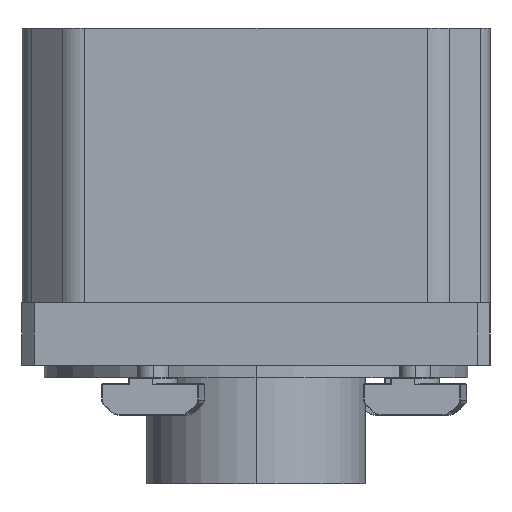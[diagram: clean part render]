
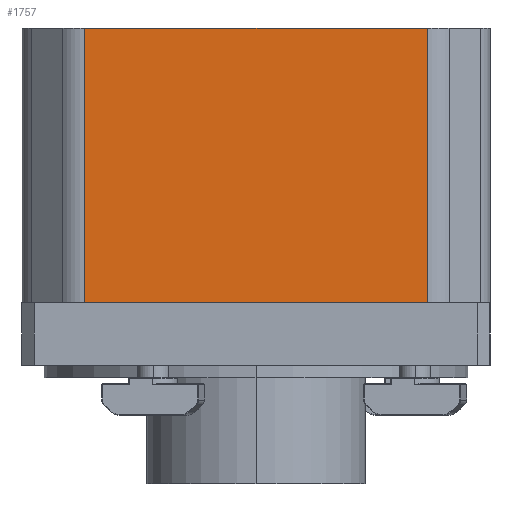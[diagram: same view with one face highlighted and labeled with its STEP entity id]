
A CAD part, left-side view. The second image highlights one B-rep face of the part: STEP entity #1757.
In plain terms, the highlighted planar face has unit normal (-1, 0, 0).
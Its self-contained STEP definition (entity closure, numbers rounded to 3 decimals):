
#188=DIRECTION('',(0.,1.,0.));
#189=VECTOR('',#188,1.929);
#190=CARTESIAN_POINT('',(-35.5,-27.429,10.));
#191=LINE('',#190,#189);
#212=DIRECTION('',(0.,1.,0.));
#213=VECTOR('',#212,10.929);
#214=CARTESIAN_POINT('',(-35.5,16.5,10.));
#215=LINE('',#214,#213);
#226=DIRECTION('',(0.,1.,0.));
#227=VECTOR('',#226,42.);
#228=CARTESIAN_POINT('',(-35.5,-25.5,10.));
#229=LINE('',#228,#227);
#346=DIRECTION('',(0.,-1.,0.));
#347=VECTOR('',#346,54.858);
#348=CARTESIAN_POINT('',(-35.5,27.429,54.));
#349=LINE('',#348,#347);
#483=DIRECTION('',(0.,0.,-1.));
#484=VECTOR('',#483,44.);
#485=CARTESIAN_POINT('',(-35.5,27.429,54.));
#486=LINE('',#485,#484);
#487=DIRECTION('',(0.,0.,1.));
#488=VECTOR('',#487,44.);
#489=CARTESIAN_POINT('',(-35.5,-27.429,10.));
#490=LINE('',#489,#488);
#1001=CARTESIAN_POINT('',(-35.5,-27.429,54.));
#1003=VERTEX_POINT('',#1001);
#1007=CARTESIAN_POINT('',(-35.5,-27.429,10.));
#1008=VERTEX_POINT('',#1007);
#1013=CARTESIAN_POINT('',(-35.5,27.429,54.));
#1014=VERTEX_POINT('',#1013);
#1015=CARTESIAN_POINT('',(-35.5,27.429,10.));
#1016=VERTEX_POINT('',#1015);
#1062=CARTESIAN_POINT('',(-35.5,16.5,10.));
#1064=VERTEX_POINT('',#1062);
#1082=CARTESIAN_POINT('',(-35.5,-25.5,10.));
#1084=VERTEX_POINT('',#1082);
#1743=CARTESIAN_POINT('',(-35.5,37.5,10.));
#1744=DIRECTION('',(-1.,0.,0.));
#1745=DIRECTION('',(0.,-1.,0.));
#1746=AXIS2_PLACEMENT_3D('',#1743,#1744,#1745);
#1747=PLANE('',#1746);
#1748=ORIENTED_EDGE('',*,*,#1373,.T.);
#1749=ORIENTED_EDGE('',*,*,#1401,.T.);
#1750=ORIENTED_EDGE('',*,*,#1395,.T.);
#1752=ORIENTED_EDGE('',*,*,#1751,.F.);
#1753=ORIENTED_EDGE('',*,*,#1556,.T.);
#1754=ORIENTED_EDGE('',*,*,#1738,.F.);
#1755=EDGE_LOOP('',(#1748,#1749,#1750,#1752,#1753,#1754));
#1756=FACE_OUTER_BOUND('',#1755,.F.);
#1373=EDGE_CURVE('',#1008,#1084,#191,.T.);
#1395=EDGE_CURVE('',#1064,#1016,#215,.T.);
#1401=EDGE_CURVE('',#1084,#1064,#229,.T.);
#1556=EDGE_CURVE('',#1014,#1003,#349,.T.);
#1738=EDGE_CURVE('',#1008,#1003,#490,.T.);
#1751=EDGE_CURVE('',#1014,#1016,#486,.T.);
#1757=ADVANCED_FACE('',(#1756),#1747,.T.);
